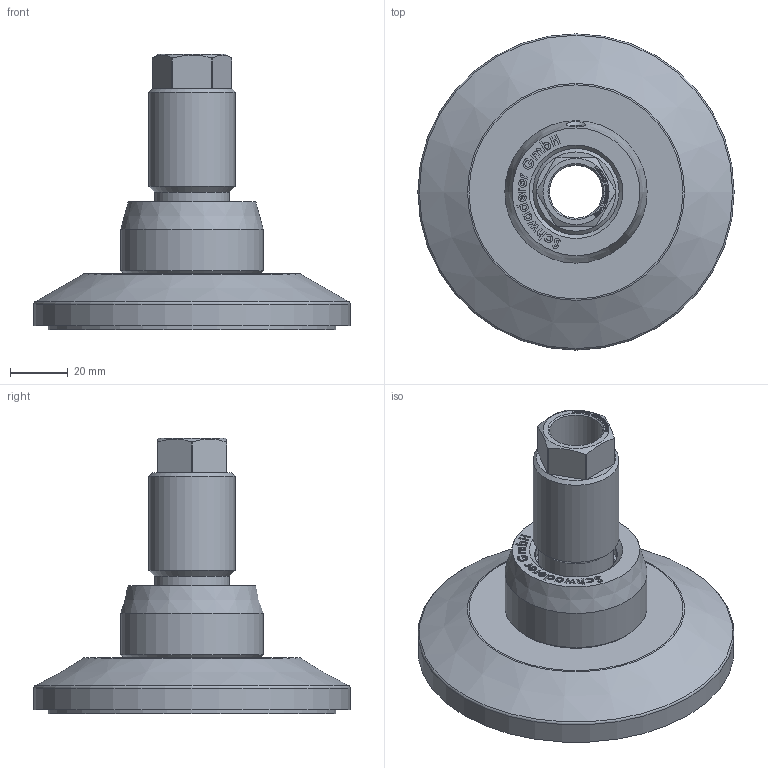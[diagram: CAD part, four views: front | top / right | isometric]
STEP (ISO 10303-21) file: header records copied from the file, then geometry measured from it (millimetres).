
FILE_DESCRIPTION(/* description */ ('JCM 100C - M30 - S6'),/* implementation_level */ '2;1');
FILE_NAME(/* name */ 'P:\CAD ab 2015\STP - Internetseite\JCMHD\JCMHD 100C - S - HSD70.stp',/* time_stamp */ '2021-10-01T09:29:03+02:00',/* author */ ('torsten'),/* organization */ ('Schwaderer GmbH Robert-Bosch-Str. 10 71563 Affalterbach'),/* preprocessor_version */ 'ST-DEVELOPER v18.1',/* originating_system */ 'Autodesk Inventor LT',/* authorisation */ '');
FILE_SCHEMA (('CONFIG_CONTROL_DESIGN'));
Length unit declared in the file: millimetre
Products named in the file (1): JCMHD 100C - S - HSD110
Bounding box: 110 x 110 x 95.9 mm (x, y, z)
Volume: 203482.1 mm3; surface area: 61870.3 mm2
Topology: 4 solids, 4 shells, 479 faces, 1300 edges, 869 vertices
Faces by surface type: plane 243, bspline 192, cylinder 23, cone 17, torus 3, sphere 1
Full cylindrical faces by diameter (mm): 5 x1, 18.5 x2, 25 x1, 26 x1, 26.5 x1, 27.5 x1, 28.5 x2, 30 x2, 31 x1, 49.5 x1, 100 x2, 110 x1
Entity records: 16599 total; most frequent: CARTESIAN_POINT 5618, ORIENTED_EDGE 2600, DIRECTION 1593, EDGE_CURVE 1300, VERTEX_POINT 869, LINE 781, VECTOR 781, EDGE_LOOP 529
